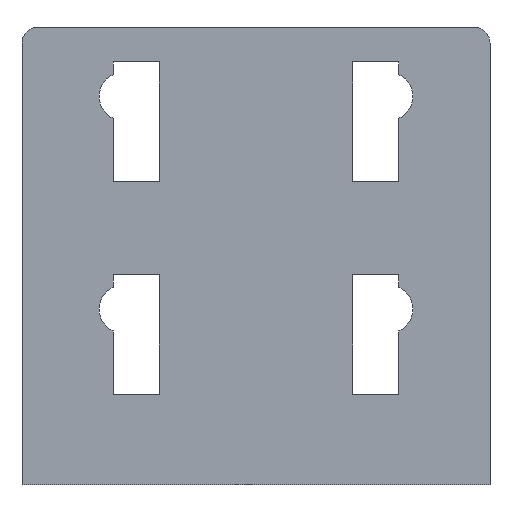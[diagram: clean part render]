
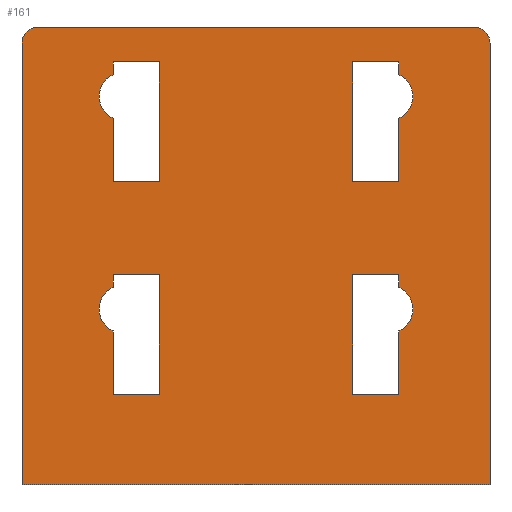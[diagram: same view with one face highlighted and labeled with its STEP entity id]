
A CAD part, front view. The second image highlights one B-rep face of the part: STEP entity #161.
In plain terms, the highlighted planar face has unit normal (0, -1, 0).
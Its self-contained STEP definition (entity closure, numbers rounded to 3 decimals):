
#103=FACE_BOUND('',#325,.T.);
#104=FACE_BOUND('',#326,.T.);
#105=FACE_BOUND('',#327,.T.);
#106=FACE_BOUND('',#328,.T.);
#107=FACE_BOUND('',#329,.T.);
#138=CIRCLE('',#1283,4.5);
#139=CIRCLE('',#1284,4.5);
#140=CIRCLE('',#1285,4.5);
#141=CIRCLE('',#1286,4.5);
#142=CIRCLE('',#1287,3.);
#143=CIRCLE('',#1288,3.);
#161=ADVANCED_FACE('1282',(#103,#104,#105,#106,#107),#218,.T.);
#218=PLANE('',#1289);
#325=EDGE_LOOP('',(#441,#442,#443,#444,#445,#446));
#326=EDGE_LOOP('',(#447,#448,#449,#450,#451,#452));
#327=EDGE_LOOP('',(#453,#454,#455,#456,#457,#458));
#328=EDGE_LOOP('',(#459,#460,#461,#462,#463,#464));
#329=EDGE_LOOP('',(#465,#466,#467,#468,#469,#470));
#441=ORIENTED_EDGE('',*,*,#870,.F.);
#442=ORIENTED_EDGE('',*,*,#871,.T.);
#443=ORIENTED_EDGE('',*,*,#872,.T.);
#444=ORIENTED_EDGE('',*,*,#873,.T.);
#445=ORIENTED_EDGE('',*,*,#874,.T.);
#446=ORIENTED_EDGE('',*,*,#826,.T.);
#447=ORIENTED_EDGE('',*,*,#875,.F.);
#448=ORIENTED_EDGE('',*,*,#876,.T.);
#449=ORIENTED_EDGE('',*,*,#877,.T.);
#450=ORIENTED_EDGE('',*,*,#878,.T.);
#451=ORIENTED_EDGE('',*,*,#879,.T.);
#452=ORIENTED_EDGE('',*,*,#830,.T.);
#453=ORIENTED_EDGE('',*,*,#880,.F.);
#454=ORIENTED_EDGE('',*,*,#881,.T.);
#455=ORIENTED_EDGE('',*,*,#882,.T.);
#456=ORIENTED_EDGE('',*,*,#883,.T.);
#457=ORIENTED_EDGE('',*,*,#884,.T.);
#458=ORIENTED_EDGE('',*,*,#834,.T.);
#459=ORIENTED_EDGE('',*,*,#885,.F.);
#460=ORIENTED_EDGE('',*,*,#886,.T.);
#461=ORIENTED_EDGE('',*,*,#887,.T.);
#462=ORIENTED_EDGE('',*,*,#888,.T.);
#463=ORIENTED_EDGE('',*,*,#889,.T.);
#464=ORIENTED_EDGE('',*,*,#838,.T.);
#465=ORIENTED_EDGE('',*,*,#841,.T.);
#466=ORIENTED_EDGE('',*,*,#853,.T.);
#467=ORIENTED_EDGE('',*,*,#890,.F.);
#468=ORIENTED_EDGE('',*,*,#891,.T.);
#469=ORIENTED_EDGE('',*,*,#892,.F.);
#470=ORIENTED_EDGE('',*,*,#893,.T.);
#718=VERTEX_POINT('',#1654);
#719=VERTEX_POINT('',#1656);
#722=VERTEX_POINT('',#1663);
#723=VERTEX_POINT('',#1665);
#726=VERTEX_POINT('',#1672);
#727=VERTEX_POINT('',#1674);
#730=VERTEX_POINT('',#1681);
#731=VERTEX_POINT('',#1683);
#732=VERTEX_POINT('',#1687);
#734=VERTEX_POINT('',#1690);
#743=VERTEX_POINT('',#1712);
#760=VERTEX_POINT('',#1748);
#761=VERTEX_POINT('',#1750);
#762=VERTEX_POINT('',#1752);
#763=VERTEX_POINT('',#1754);
#764=VERTEX_POINT('',#1757);
#765=VERTEX_POINT('',#1759);
#766=VERTEX_POINT('',#1761);
#767=VERTEX_POINT('',#1763);
#768=VERTEX_POINT('',#1766);
#769=VERTEX_POINT('',#1768);
#770=VERTEX_POINT('',#1770);
#771=VERTEX_POINT('',#1772);
#772=VERTEX_POINT('',#1775);
#773=VERTEX_POINT('',#1777);
#774=VERTEX_POINT('',#1779);
#775=VERTEX_POINT('',#1781);
#776=VERTEX_POINT('',#1784);
#777=VERTEX_POINT('',#1786);
#778=VERTEX_POINT('',#1788);
#826=EDGE_CURVE('',#719,#718,#988,.T.);
#830=EDGE_CURVE('',#723,#722,#992,.T.);
#834=EDGE_CURVE('1947',#727,#726,#996,.T.);
#838=EDGE_CURVE('1939',#731,#730,#1000,.T.);
#841=EDGE_CURVE('1712',#734,#732,#1003,.T.);
#853=EDGE_CURVE('1285',#732,#743,#1010,.T.);
#870=EDGE_CURVE('',#760,#718,#138,.T.);
#871=EDGE_CURVE('1949',#760,#761,#1027,.T.);
#872=EDGE_CURVE('1948',#761,#762,#1028,.T.);
#873=EDGE_CURVE('1951',#762,#763,#1029,.T.);
#874=EDGE_CURVE('1950',#763,#719,#1030,.T.);
#875=EDGE_CURVE('',#764,#722,#139,.T.);
#876=EDGE_CURVE('1941',#764,#765,#1031,.T.);
#877=EDGE_CURVE('1940',#765,#766,#1032,.T.);
#878=EDGE_CURVE('1943',#766,#767,#1033,.T.);
#879=EDGE_CURVE('1942',#767,#723,#1034,.T.);
#880=EDGE_CURVE('',#768,#726,#140,.T.);
#881=EDGE_CURVE('',#768,#769,#1035,.T.);
#882=EDGE_CURVE('1946',#769,#770,#1036,.T.);
#883=EDGE_CURVE('1945',#770,#771,#1037,.T.);
#884=EDGE_CURVE('1944',#771,#727,#1038,.T.);
#885=EDGE_CURVE('',#772,#730,#141,.T.);
#886=EDGE_CURVE('',#772,#773,#1039,.T.);
#887=EDGE_CURVE('1938',#773,#774,#1040,.T.);
#888=EDGE_CURVE('1937',#774,#775,#1041,.T.);
#889=EDGE_CURVE('1936',#775,#731,#1042,.T.);
#890=EDGE_CURVE('1714',#776,#743,#1043,.T.);
#891=EDGE_CURVE('1709',#776,#777,#142,.T.);
#892=EDGE_CURVE('12922',#778,#777,#1044,.T.);
#893=EDGE_CURVE('1701',#778,#734,#143,.T.);
#988=LINE('',#1655,#1130);
#992=LINE('',#1664,#1134);
#996=LINE('',#1673,#1138);
#1000=LINE('',#1682,#1142);
#1003=LINE('',#1689,#1145);
#1010=LINE('',#1713,#1152);
#1027=LINE('',#1749,#1169);
#1028=LINE('',#1751,#1170);
#1029=LINE('',#1753,#1171);
#1030=LINE('',#1755,#1172);
#1031=LINE('',#1758,#1173);
#1032=LINE('',#1760,#1174);
#1033=LINE('',#1762,#1175);
#1034=LINE('',#1764,#1176);
#1035=LINE('',#1767,#1177);
#1036=LINE('',#1769,#1178);
#1037=LINE('',#1771,#1179);
#1038=LINE('',#1773,#1180);
#1039=LINE('',#1776,#1181);
#1040=LINE('',#1778,#1182);
#1041=LINE('',#1780,#1183);
#1042=LINE('',#1782,#1184);
#1043=LINE('',#1783,#1185);
#1044=LINE('',#1787,#1186);
#1130=VECTOR('',#1353,1.);
#1134=VECTOR('',#1359,1.);
#1138=VECTOR('',#1365,1.);
#1142=VECTOR('',#1371,1.);
#1145=VECTOR('',#1376,1.);
#1152=VECTOR('',#1397,1.);
#1169=VECTOR('',#1418,1.);
#1170=VECTOR('',#1419,1.);
#1171=VECTOR('',#1420,1.);
#1172=VECTOR('',#1421,1.);
#1173=VECTOR('',#1424,1.);
#1174=VECTOR('',#1425,1.);
#1175=VECTOR('',#1426,1.);
#1176=VECTOR('',#1427,1.);
#1177=VECTOR('',#1430,1.);
#1178=VECTOR('',#1431,1.);
#1179=VECTOR('',#1432,1.);
#1180=VECTOR('',#1433,1.);
#1181=VECTOR('',#1436,1.);
#1182=VECTOR('',#1437,1.);
#1183=VECTOR('',#1438,1.);
#1184=VECTOR('',#1439,1.);
#1185=VECTOR('',#1440,1.);
#1186=VECTOR('',#1443,1.);
#1283=AXIS2_PLACEMENT_3D('',#1747,#1416,#1417);
#1284=AXIS2_PLACEMENT_3D('',#1756,#1422,#1423);
#1285=AXIS2_PLACEMENT_3D('',#1765,#1428,#1429);
#1286=AXIS2_PLACEMENT_3D('',#1774,#1434,#1435);
#1287=AXIS2_PLACEMENT_3D('',#1785,#1441,#1442);
#1288=AXIS2_PLACEMENT_3D('',#1789,#1444,#1445);
#1289=AXIS2_PLACEMENT_3D('',#1790,#1446,#1447);
#1353=DIRECTION('',(0.,0.,-1.));
#1359=DIRECTION('',(0.,0.,-1.));
#1365=DIRECTION('',(0.,0.,1.));
#1371=DIRECTION('',(0.,0.,1.));
#1376=DIRECTION('',(0.,0.,-1.));
#1397=DIRECTION('',(1.,0.,0.));
#1416=DIRECTION('',(0.,-1.,0.));
#1417=DIRECTION('',(0.,0.,-1.));
#1418=DIRECTION('',(0.,0.,-1.));
#1419=DIRECTION('',(-1.,0.,0.));
#1420=DIRECTION('',(0.,0.,1.));
#1421=DIRECTION('',(1.,0.,0.));
#1422=DIRECTION('',(0.,-1.,0.));
#1423=DIRECTION('',(0.,0.,-1.));
#1424=DIRECTION('',(0.,0.,-1.));
#1425=DIRECTION('',(-1.,0.,0.));
#1426=DIRECTION('',(0.,0.,1.));
#1427=DIRECTION('',(1.,0.,0.));
#1428=DIRECTION('',(0.,-1.,0.));
#1429=DIRECTION('',(0.,0.,-1.));
#1430=DIRECTION('',(0.,0.,1.));
#1431=DIRECTION('',(1.,0.,0.));
#1432=DIRECTION('',(0.,0.,-1.));
#1433=DIRECTION('',(-1.,0.,0.));
#1434=DIRECTION('',(0.,-1.,0.));
#1435=DIRECTION('',(0.,0.,-1.));
#1436=DIRECTION('',(0.,0.,1.));
#1437=DIRECTION('',(1.,0.,0.));
#1438=DIRECTION('',(0.,0.,-1.));
#1439=DIRECTION('',(-1.,0.,0.));
#1440=DIRECTION('',(0.,0.,-1.));
#1441=DIRECTION('',(0.,-1.,0.));
#1442=DIRECTION('',(1.,0.,0.));
#1443=DIRECTION('',(1.,0.,0.));
#1444=DIRECTION('',(0.,-1.,0.));
#1445=DIRECTION('',(0.,0.,1.));
#1446=DIRECTION('',(0.,-1.,0.));
#1447=DIRECTION('',(0.,0.,-1.));
#1654=CARTESIAN_POINT('',(13.35,-7.,-8.398));
#1655=CARTESIAN_POINT('',(13.35,-7.,-6.));
#1656=CARTESIAN_POINT('',(13.35,-7.,-6.));
#1663=CARTESIAN_POINT('',(13.35,-7.,-48.398));
#1664=CARTESIAN_POINT('',(13.35,-7.,-46.));
#1665=CARTESIAN_POINT('',(13.35,-7.,-46.));
#1672=CARTESIAN_POINT('',(-40.35,-7.,-16.602));
#1673=CARTESIAN_POINT('',(-40.35,-7.,-28.5));
#1674=CARTESIAN_POINT('',(-40.35,-7.,-28.5));
#1681=CARTESIAN_POINT('',(-40.35,-7.,-56.602));
#1682=CARTESIAN_POINT('',(-40.35,-7.,-68.5));
#1683=CARTESIAN_POINT('',(-40.35,-7.,-68.5));
#1687=CARTESIAN_POINT('',(-57.5,-7.,-85.5));
#1689=CARTESIAN_POINT('',(-57.5,-7.,-2.5));
#1690=CARTESIAN_POINT('',(-57.5,-7.,-2.5));
#1712=CARTESIAN_POINT('',(30.5,-7.,-85.5));
#1713=CARTESIAN_POINT('',(-57.5,-7.,-85.5));
#1747=CARTESIAN_POINT('',(11.5,-7.,-12.5));
#1748=CARTESIAN_POINT('',(13.35,-7.,-16.602));
#1749=CARTESIAN_POINT('',(13.35,-7.,-6.));
#1750=CARTESIAN_POINT('',(13.35,-7.,-28.5));
#1751=CARTESIAN_POINT('',(13.35,-7.,-28.5));
#1752=CARTESIAN_POINT('',(4.65,-7.,-28.5));
#1753=CARTESIAN_POINT('',(4.65,-7.,-28.5));
#1754=CARTESIAN_POINT('',(4.65,-7.,-6.));
#1755=CARTESIAN_POINT('',(4.65,-7.,-6.));
#1756=CARTESIAN_POINT('',(11.5,-7.,-52.5));
#1757=CARTESIAN_POINT('',(13.35,-7.,-56.602));
#1758=CARTESIAN_POINT('',(13.35,-7.,-46.));
#1759=CARTESIAN_POINT('',(13.35,-7.,-68.5));
#1760=CARTESIAN_POINT('',(13.35,-7.,-68.5));
#1761=CARTESIAN_POINT('',(4.65,-7.,-68.5));
#1762=CARTESIAN_POINT('',(4.65,-7.,-68.5));
#1763=CARTESIAN_POINT('',(4.65,-7.,-46.));
#1764=CARTESIAN_POINT('',(4.65,-7.,-46.));
#1765=CARTESIAN_POINT('',(-38.5,-7.,-12.5));
#1766=CARTESIAN_POINT('',(-40.35,-7.,-8.398));
#1767=CARTESIAN_POINT('',(-40.35,-7.,-28.5));
#1768=CARTESIAN_POINT('',(-40.35,-7.,-6.));
#1769=CARTESIAN_POINT('',(-40.35,-7.,-6.));
#1770=CARTESIAN_POINT('',(-31.65,-7.,-6.));
#1771=CARTESIAN_POINT('',(-31.65,-7.,-6.));
#1772=CARTESIAN_POINT('',(-31.65,-7.,-28.5));
#1773=CARTESIAN_POINT('',(-31.65,-7.,-28.5));
#1774=CARTESIAN_POINT('',(-38.5,-7.,-52.5));
#1775=CARTESIAN_POINT('',(-40.35,-7.,-48.398));
#1776=CARTESIAN_POINT('',(-40.35,-7.,-68.5));
#1777=CARTESIAN_POINT('',(-40.35,-7.,-46.));
#1778=CARTESIAN_POINT('',(-40.35,-7.,-46.));
#1779=CARTESIAN_POINT('',(-31.65,-7.,-46.));
#1780=CARTESIAN_POINT('',(-31.65,-7.,-46.));
#1781=CARTESIAN_POINT('',(-31.65,-7.,-68.5));
#1782=CARTESIAN_POINT('',(-31.65,-7.,-68.5));
#1783=CARTESIAN_POINT('',(30.5,-7.,-2.5));
#1784=CARTESIAN_POINT('',(30.5,-7.,-2.5));
#1785=CARTESIAN_POINT('',(27.5,-7.,-2.5));
#1786=CARTESIAN_POINT('',(27.5,-7.,0.5));
#1787=CARTESIAN_POINT('',(-54.5,-7.,0.5));
#1788=CARTESIAN_POINT('',(-54.5,-7.,0.5));
#1789=CARTESIAN_POINT('',(-54.5,-7.,-2.5));
#1790=CARTESIAN_POINT('',(-57.5,-7.,0.5));
